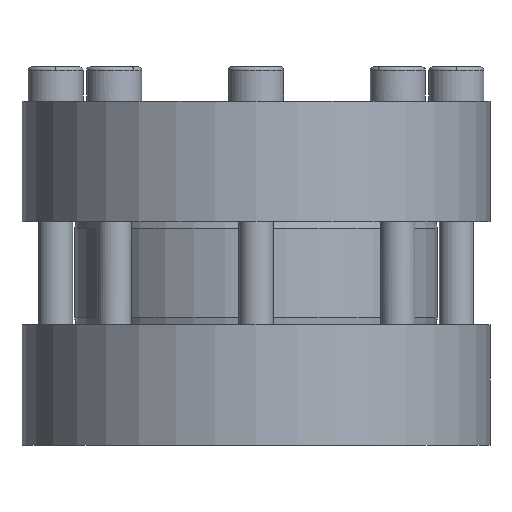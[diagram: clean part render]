
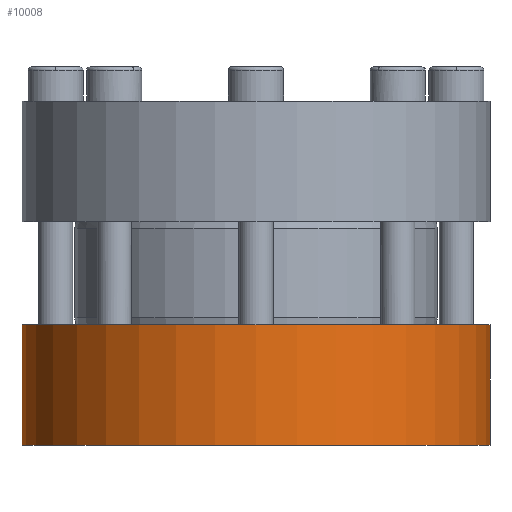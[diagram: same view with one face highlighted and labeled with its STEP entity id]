
A CAD part, front view. The second image highlights one B-rep face of the part: STEP entity #10008.
In plain terms, the highlighted cylindrical face has radius 68 mm (diameter 136 mm), a partial arc.
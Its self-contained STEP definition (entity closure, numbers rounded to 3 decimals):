
#51 = CARTESIAN_POINT ( 'NONE',  ( -68., 0., 225.34 ) ) ;
#1160 = DIRECTION ( 'NONE',  ( 0., 0., -1. ) ) ;
#1292 = CARTESIAN_POINT ( 'NONE',  ( 0., 0., 33.007 ) ) ;
#1447 = AXIS2_PLACEMENT_3D ( 'NONE', #12512, #6300, #4180 ) ;
#1609 = CARTESIAN_POINT ( 'NONE',  ( 68., 0., 225.34 ) ) ;
#2215 = VERTEX_POINT ( 'NONE', #5093 ) ;
#2395 = DIRECTION ( 'NONE',  ( 1., 0., 0. ) ) ;
#2462 = VECTOR ( 'NONE', #9220, 1000. ) ;
#2533 = ORIENTED_EDGE ( 'NONE', *, *, #12764, .T. ) ;
#3350 = VERTEX_POINT ( 'NONE', #8845 ) ;
#3796 = VECTOR ( 'NONE', #1160, 1000. ) ;
#4180 = DIRECTION ( 'NONE',  ( -1., 0., 0. ) ) ;
#4931 = CIRCLE ( 'NONE', #8363, 68. ) ;
#5093 = CARTESIAN_POINT ( 'NONE',  ( 68., 0., -1.993 ) ) ;
#6300 = DIRECTION ( 'NONE',  ( 0., 0., -1. ) ) ;
#6433 = CARTESIAN_POINT ( 'NONE',  ( 68., 0., 33.007 ) ) ;
#6481 = VERTEX_POINT ( 'NONE', #9663 ) ;
#6509 = LINE ( 'NONE', #51, #3796 ) ;
#7020 = AXIS2_PLACEMENT_3D ( 'NONE', #11270, #11243, #11201 ) ;
#7650 = EDGE_CURVE ( 'NONE', #2215, #3350, #13672, .T. ) ;
#8148 = ORIENTED_EDGE ( 'NONE', *, *, #7650, .F. ) ;
#8292 = CYLINDRICAL_SURFACE ( 'NONE', #1447, 68. ) ;
#8363 = AXIS2_PLACEMENT_3D ( 'NONE', #1292, #8882, #2395 ) ;
#8845 = CARTESIAN_POINT ( 'NONE',  ( -68., 0., -1.993 ) ) ;
#8882 = DIRECTION ( 'NONE',  ( 0., 0., -1. ) ) ;
#9220 = DIRECTION ( 'NONE',  ( 0., 0., -1. ) ) ;
#9520 = EDGE_CURVE ( 'NONE', #10120, #6481, #4931, .T. ) ;
#9663 = CARTESIAN_POINT ( 'NONE',  ( -68., 0., 33.007 ) ) ;
#10008 = ADVANCED_FACE ( 'NONE', ( #12266 ), #8292, .T. ) ;
#10049 = ORIENTED_EDGE ( 'NONE', *, *, #9520, .T. ) ;
#10120 = VERTEX_POINT ( 'NONE', #6433 ) ;
#10179 = EDGE_LOOP ( 'NONE', ( #10432, #10049, #2533, #8148 ) ) ;
#10432 = ORIENTED_EDGE ( 'NONE', *, *, #12337, .F. ) ;
#11201 = DIRECTION ( 'NONE',  ( -1., 0., 0. ) ) ;
#11243 = DIRECTION ( 'NONE',  ( 0., 0., -1. ) ) ;
#11270 = CARTESIAN_POINT ( 'NONE',  ( 0., 0., -1.993 ) ) ;
#12266 = FACE_OUTER_BOUND ( 'NONE', #10179, .T. ) ;
#12337 = EDGE_CURVE ( 'NONE', #10120, #2215, #13312, .T. ) ;
#12512 = CARTESIAN_POINT ( 'NONE',  ( 0., 0., 225.34 ) ) ;
#12764 = EDGE_CURVE ( 'NONE', #6481, #3350, #6509, .T. ) ;
#13312 = LINE ( 'NONE', #1609, #2462 ) ;
#13672 = CIRCLE ( 'NONE', #7020, 68. ) ;
